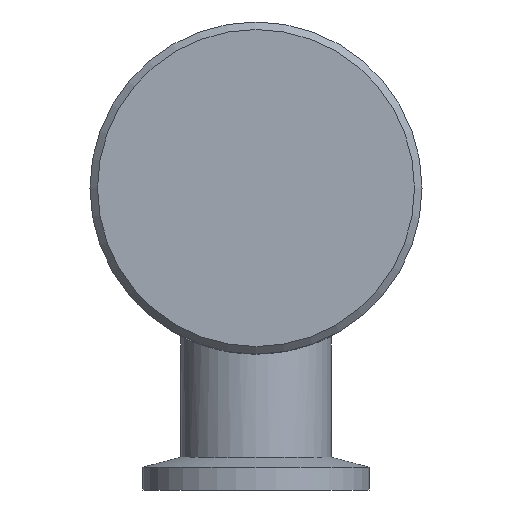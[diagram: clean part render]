
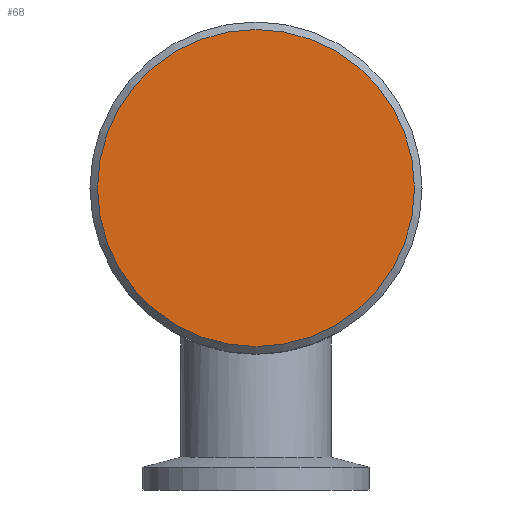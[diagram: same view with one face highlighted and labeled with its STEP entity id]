
A CAD part, left-side view. The second image highlights one B-rep face of the part: STEP entity #68.
In plain terms, the highlighted planar face has unit normal (-1, 0, 0).
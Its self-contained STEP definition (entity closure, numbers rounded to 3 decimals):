
#68 = ADVANCED_FACE( '', ( #148 ), #149, .T. );
#148 = FACE_OUTER_BOUND( '', #235, .T. );
#149 = PLANE( '', #236 );
#235 = EDGE_LOOP( '', ( #340 ) );
#236 = AXIS2_PLACEMENT_3D( '', #341, #342, #343 );
#340 = ORIENTED_EDGE( '', *, *, #407, .T. );
#341 = CARTESIAN_POINT( '', ( -15., 0., 0. ) );
#342 = DIRECTION( '', ( -1., 0., 0. ) );
#343 = DIRECTION( '', ( 0., 0., 1. ) );
#407 = EDGE_CURVE( '', #458, #458, #459, .T. );
#458 = VERTEX_POINT( '', #518 );
#459 = CIRCLE( '', #519, 21. );
#518 = CARTESIAN_POINT( '', ( -15., 0., 21. ) );
#519 = AXIS2_PLACEMENT_3D( '', #767, #768, #769 );
#767 = CARTESIAN_POINT( '', ( -15., 0., 0. ) );
#768 = DIRECTION( '', ( -1., 0., 0. ) );
#769 = DIRECTION( '', ( 0., 0., 1. ) );
